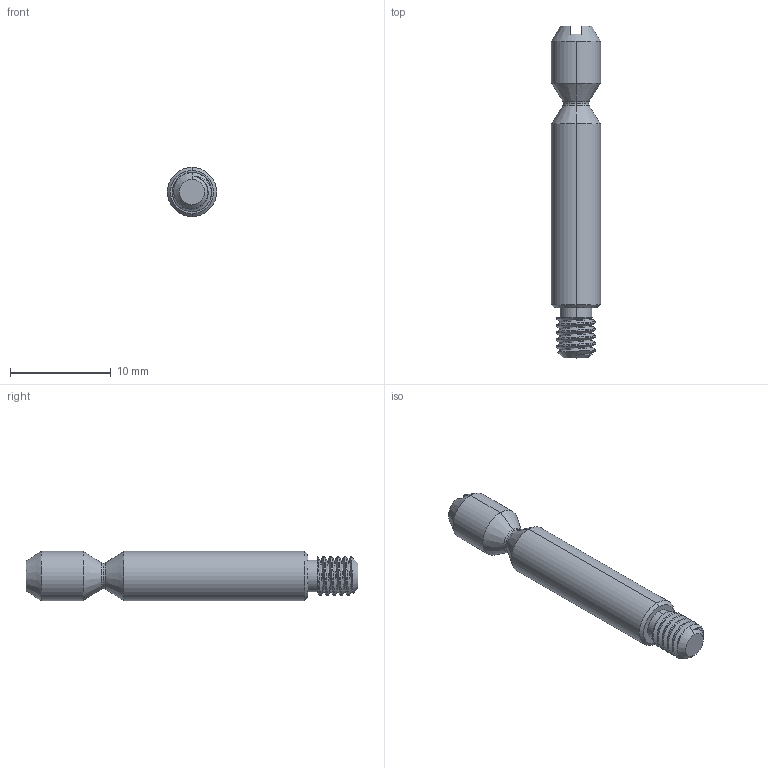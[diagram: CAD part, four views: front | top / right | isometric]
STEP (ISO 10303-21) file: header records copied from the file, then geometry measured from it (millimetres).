
FILE_DESCRIPTION (( 'STEP AP203' ), '1' );
FILE_NAME ('11.03.482 Dowel pin f. mini system s.STEP', '2024-03-06T11:42:27', ( '' ), ( '' ), 'SwSTEP 2.0', 'SolidWorks 2024', '' );
FILE_SCHEMA (( 'CONFIG_CONTROL_DESIGN' ));
Length unit declared in the file: millimetre
Products named in the file (1): 11.03.482 Dowel pin f. mini system s
Bounding box: 4.9 x 33 x 4.9 mm (x, y, z)
Surface area: 529.5 mm2 (no closed solid volume)
Topology: 0 solids, 1 shells, 41 faces, 101 edges, 62 vertices
Faces by surface type: cylinder 16, cone 10, plane 8, torus 4, bspline 3
Entity records: 8373 total; most frequent: CARTESIAN_POINT 7404, ORIENTED_EDGE 200, DIRECTION 179, EDGE_CURVE 101, AXIS2_PLACEMENT_3D 75, VERTEX_POINT 62, EDGE_LOOP 42, FACE_OUTER_BOUND 41
